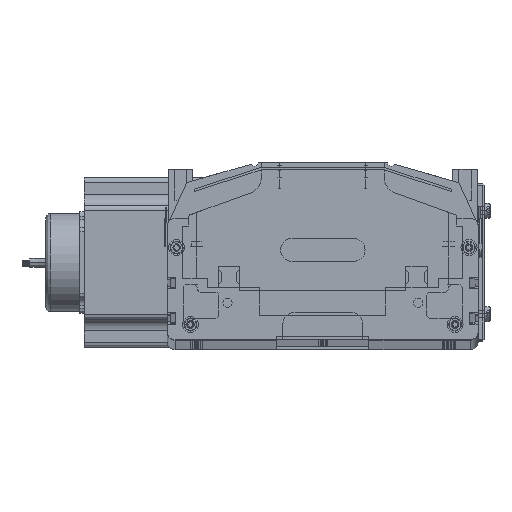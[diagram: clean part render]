
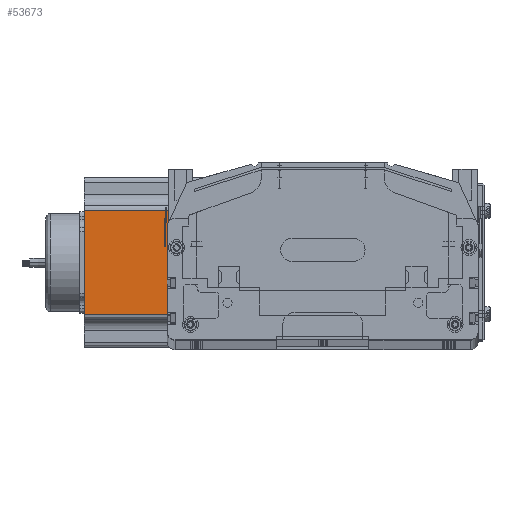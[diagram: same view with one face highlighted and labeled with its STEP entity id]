
A CAD part, top view. The second image highlights one B-rep face of the part: STEP entity #53673.
In plain terms, the highlighted planar face has unit normal (0, 0, 1) as drawn and (0, -1, 0) by its records, which use the part's own axes.
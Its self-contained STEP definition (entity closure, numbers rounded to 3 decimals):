
#19469 = AXIS2_PLACEMENT_3D ( 'NONE', #19523, #19625, #19538 ) ;
#19523 = CARTESIAN_POINT ( 'NONE',  ( 0., 0., 160.5 ) ) ;
#19538 = DIRECTION ( 'NONE',  ( 0., 0., 1. ) ) ;
#19596 = FACE_OUTER_BOUND ( 'NONE', #50778, .T. ) ;
#19625 = DIRECTION ( 'NONE',  ( 0., 1., 0. ) ) ;
#19626 = PLANE ( 'NONE',  #19469 ) ;
#19629 = CARTESIAN_POINT ( 'NONE',  ( 88.952, 0., 160.5 ) ) ;
#19688 = CARTESIAN_POINT ( 'NONE',  ( 21.048, 0., 160.5 ) ) ;
#20005 = CARTESIAN_POINT ( 'NONE',  ( 21.048, 0., 0. ) ) ;
#20010 = LINE ( 'NONE', #20034, #20031 ) ;
#20030 = DIRECTION ( 'NONE',  ( 0., 0., 1. ) ) ;
#20031 = VECTOR ( 'NONE', #20030, 1000. ) ;
#20034 = CARTESIAN_POINT ( 'NONE',  ( 88.952, 0., 160.5 ) ) ;
#20049 = DIRECTION ( 'NONE',  ( 1., 0., 0. ) ) ;
#20050 = VECTOR ( 'NONE', #20049, 1000. ) ;
#20051 = CARTESIAN_POINT ( 'NONE',  ( 0., 0., 160.5 ) ) ;
#20052 = LINE ( 'NONE', #20051, #20050 ) ;
#20290 = DIRECTION ( 'NONE',  ( 0., 0., -1. ) ) ;
#20291 = DIRECTION ( 'NONE',  ( 1., 0., 0. ) ) ;
#20292 = VECTOR ( 'NONE', #20291, 1000. ) ;
#20293 = CARTESIAN_POINT ( 'NONE',  ( 0., 0., 0. ) ) ;
#20294 = LINE ( 'NONE', #20293, #20292 ) ;
#20295 = CARTESIAN_POINT ( 'NONE',  ( 88.952, 0., 0. ) ) ;
#20302 = CARTESIAN_POINT ( 'NONE',  ( 21.048, 0., 160.5 ) ) ;
#20309 = LINE ( 'NONE', #20302, #20360 ) ;
#20360 = VECTOR ( 'NONE', #20290, 1000. ) ;
#50778 = EDGE_LOOP ( 'NONE', ( #54302, #54126, #54313, #54043 ) ) ;
#53673 = ADVANCED_FACE ( 'NONE', ( #19596 ), #19626, .F. ) ;
#53836 = VERTEX_POINT ( 'NONE', #19629 ) ;
#54037 = VERTEX_POINT ( 'NONE', #19688 ) ;
#54043 = ORIENTED_EDGE ( 'NONE', *, *, #54316, .T. ) ;
#54094 = VERTEX_POINT ( 'NONE', #20005 ) ;
#54126 = ORIENTED_EDGE ( 'NONE', *, *, #54133, .T. ) ;
#54131 = EDGE_CURVE ( 'NONE', #54037, #53836, #20052, .T. ) ;
#54133 = EDGE_CURVE ( 'NONE', #54295, #53836, #20010, .T. ) ;
#54295 = VERTEX_POINT ( 'NONE', #20295 ) ;
#54298 = EDGE_CURVE ( 'NONE', #54094, #54295, #20294, .T. ) ;
#54302 = ORIENTED_EDGE ( 'NONE', *, *, #54298, .T. ) ;
#54313 = ORIENTED_EDGE ( 'NONE', *, *, #54131, .F. ) ;
#54316 = EDGE_CURVE ( 'NONE', #54037, #54094, #20309, .T. ) ;
